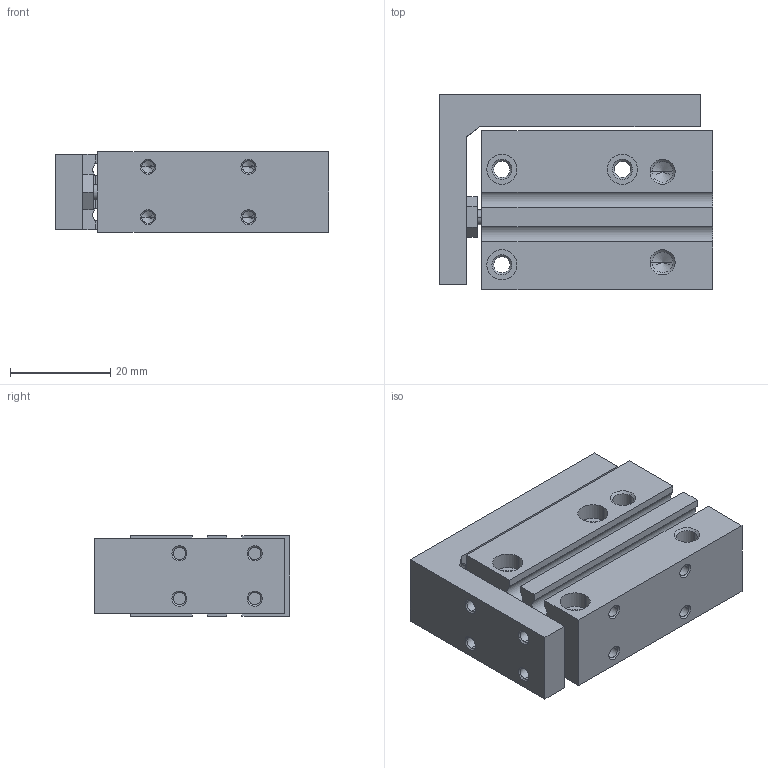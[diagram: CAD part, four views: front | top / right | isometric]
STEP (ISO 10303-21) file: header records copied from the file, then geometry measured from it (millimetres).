
FILE_DESCRIPTION (( 'STEP AP203' ), '1' );
FILE_NAME ('CXH6-15.STEP', '2020-04-16T18:00:57', ( '' ), ( '' ), 'SwSTEP 2.0', 'SolidWorks 2019', '' );
FILE_SCHEMA (( 'CONFIG_CONTROL_DESIGN' ));
Length unit declared in the file: millimetre
Products named in the file (1): CXH6-15
Bounding box: 54.5 x 39 x 16 mm (x, y, z)
Volume: 25989.8 mm3; surface area: 13520.3 mm2
Topology: 2 solids, 2 shells, 208 faces, 495 edges, 286 vertices
Faces by surface type: cone 88, cylinder 76, plane 44
Entity records: 6004 total; most frequent: DIRECTION 1093, CARTESIAN_POINT 1080, ORIENTED_EDGE 934, EDGE_CURVE 467, AXIS2_PLACEMENT_3D 421, VERTEX_POINT 286, EDGE_LOOP 253, VECTOR 251
